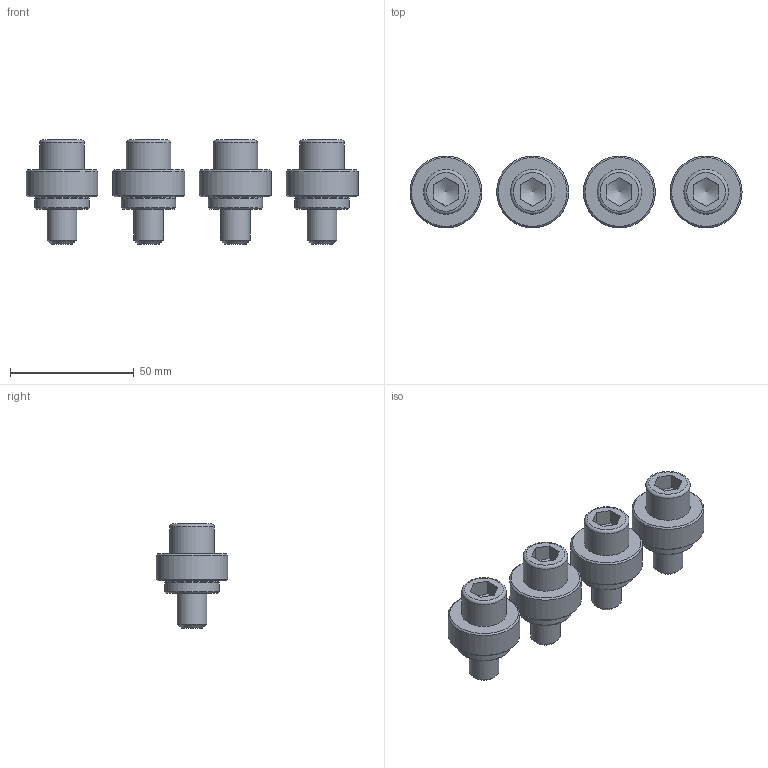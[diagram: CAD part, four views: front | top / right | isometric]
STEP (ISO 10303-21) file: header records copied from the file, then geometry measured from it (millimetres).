
FILE_DESCRIPTION(('STEP AP214'), '1');
FILE_NAME('BB.VS.100.50.011 捘', '', ('UNSPECIFIED'), ('UNSPECIFIED'), 'C3D Converter', 'C3D Toolkit', '');
FILE_SCHEMA(('AUTOMOTIVE_DESIGN { 1 0 10303 214 3 1 1}'));
Length unit declared in the file: millimetre
Products named in the file (2): BB.VS.100.50.011 СБ
Assembly tree (4 placements, depth 2):
  BB.VS.100.50.011 СБ
    BB.VS.100.50.011 СБ  x4
Bounding box: 134 x 29 x 42 mm (x, y, z)
Volume: 50890.1 mm3; surface area: 20981.5 mm2
Topology: 4 solids, 4 shells, 116 faces, 232 edges, 140 vertices
Faces by surface type: plane 48, cone 36, cylinder 20, torus 12
Full cylindrical faces by diameter (mm): 12 x4, 13 x4, 18 x4, 22 x4, 29 x4
Entity records: 1064 total; most frequent: CARTESIAN_POINT 375, DIRECTION 122, ORIENTED_EDGE 80, AXIS2_PLACEMENT_3D 55, EDGE_LOOP 50, EDGE_CURVE 40, VERTEX_POINT 34, FACE_OUTER_BOUND 32
